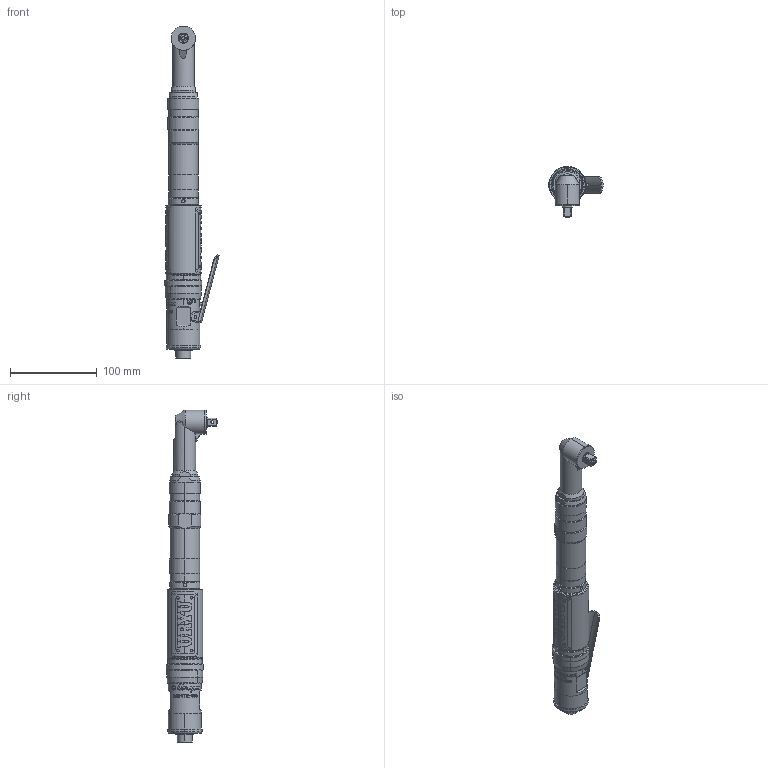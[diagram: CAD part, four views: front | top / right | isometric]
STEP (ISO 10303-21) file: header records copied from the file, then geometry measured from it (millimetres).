
FILE_DESCRIPTION (( 'STEP AP203' ), '1' );
FILE_NAME ('UAN-611R-60C.STEP', '2007-10-26T06:23:34', ( 'gikai-nt16' ), ( ' ' ), 'SwSTEP 2.0', 'SolidWorks 2003240', '' );
FILE_SCHEMA (( 'CONFIG_CONTROL_DESIGN' ));
Length unit declared in the file: millimetre
Products named in the file (11): 2684416_蹬怮椔; 2597806_UAN-611R-30C_蹬怮椔; 1961077_UAN-611R-30C_蹬怮椔; UAN-611R-60C; 2583195_UAN-611R-30C_蹬怮椔; 2683696_UAN-611R-60C_蹬怮椔; 4630298_UAN-611R-30C_蹬怮椔; 2680257_UAN-611R-60C_蹬怮椔; 2591140_UAN-611R-30C_蹬怮椔; 2688406_UAN-611R-30C_蹬怮椔; 2682126_UAN-611R-30C_蹬怮椔
Assembly tree (10 placements, depth 2):
  UAN-611R-60C
    4630298_UAN-611R-30C_蹬怮椔
    2688406_UAN-611R-30C_蹬怮椔
    2684416_蹬怮椔
    2583195_UAN-611R-30C_蹬怮椔
    2680257_UAN-611R-60C_蹬怮椔
    2591140_UAN-611R-30C_蹬怮椔
    1961077_UAN-611R-30C_蹬怮椔
    2682126_UAN-611R-30C_蹬怮椔
    2683696_UAN-611R-60C_蹬怮椔
    2597806_UAN-611R-30C_蹬怮椔
Bounding box: 62.79 x 59.42 x 383.2 mm (x, y, z)
Volume: 381475.9 mm3; surface area: 86857.2 mm2
Topology: 10 solids, 10 shells, 935 faces, 2441 edges, 1604 vertices
Faces by surface type: plane 436, cylinder 340, bspline 106, cone 43, torus 8, sphere 2
Entity records: 39022 total; most frequent: CARTESIAN_POINT 16169, ORIENTED_EDGE 4878, DIRECTION 4020, EDGE_CURVE 2439, VERTEX_POINT 1604, AXIS2_PLACEMENT_3D 1462, LINE 1096, VECTOR 1096
